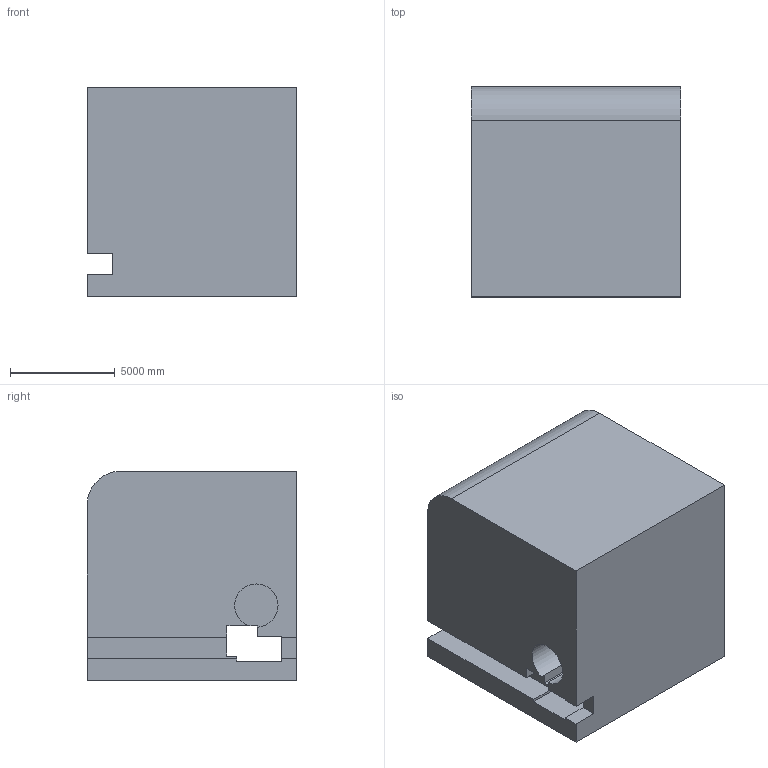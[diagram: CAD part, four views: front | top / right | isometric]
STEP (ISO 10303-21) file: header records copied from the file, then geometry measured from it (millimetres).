
FILE_DESCRIPTION (( 'STEP AP203' ), '1' );
FILE_NAME ('1828.STEP', '2022-08-19T13:17:25', ( 'user' ), ( '' ), 'SwSTEP 2.0', 'SolidWorks 2021', '' );
FILE_SCHEMA (( 'CONFIG_CONTROL_DESIGN' ));
Length unit declared in the file: centimetre
Products named in the file (1): 1828
Bounding box: 10000 x 10000 x 10000 mm (x, y, z)
Volume: 919512286609.5 mm3; surface area: 756860393.4 mm2
Topology: 1 solids, 1 shells, 44 faces, 132 edges, 88 vertices
Faces by surface type: plane 39, cylinder 5
Entity records: 1551 total; most frequent: CARTESIAN_POINT 265, ORIENTED_EDGE 264, DIRECTION 232, EDGE_CURVE 132, VECTOR 122, LINE 122, VERTEX_POINT 88, AXIS2_PLACEMENT_3D 55
